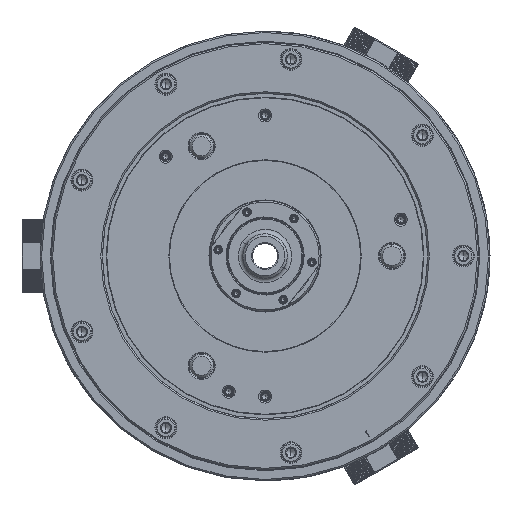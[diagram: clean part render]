
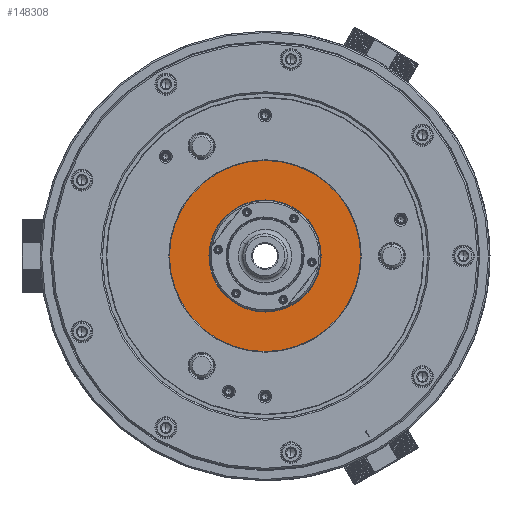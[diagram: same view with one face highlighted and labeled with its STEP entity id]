
A CAD part, left-side view. The second image highlights one B-rep face of the part: STEP entity #148308.
In plain terms, the highlighted planar face has unit normal (-1, 0, 0) as drawn and (0, 0, -1) by its records, which use the part's own axes.
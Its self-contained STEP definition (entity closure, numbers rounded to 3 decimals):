
#10630 = ORIENTED_EDGE ( 'NONE', *, *, #121672, .F. ) ;
#11906 = CARTESIAN_POINT ( 'NONE',  ( 0., 0., -126.8 ) ) ;
#25225 = DIRECTION ( 'NONE',  ( 0., 0., 1. ) ) ;
#26360 = CARTESIAN_POINT ( 'NONE',  ( 0., -65., -126.8 ) ) ;
#26466 = DIRECTION ( 'NONE',  ( 0., 0., 1. ) ) ;
#27181 = CIRCLE ( 'NONE', #57551, 64.616 ) ;
#28950 = VERTEX_POINT ( 'NONE', #182733 ) ;
#36580 = AXIS2_PLACEMENT_3D ( 'NONE', #11906, #25225, #83090 ) ;
#38759 = DIRECTION ( 'NONE',  ( 1., 0., 0. ) ) ;
#39322 = AXIS2_PLACEMENT_3D ( 'NONE', #49875, #109548, #167349 ) ;
#49394 = VERTEX_POINT ( 'NONE', #109243 ) ;
#49875 = CARTESIAN_POINT ( 'NONE',  ( 0., 0., -126.8 ) ) ;
#50836 = ORIENTED_EDGE ( 'NONE', *, *, #97735, .F. ) ;
#53921 = FACE_BOUND ( 'NONE', #140642, .T. ) ;
#57551 = AXIS2_PLACEMENT_3D ( 'NONE', #183867, #26466, #69189 ) ;
#69189 = DIRECTION ( 'NONE',  ( 1., 0., 0. ) ) ;
#78740 = ORIENTED_EDGE ( 'NONE', *, *, #156804, .T. ) ;
#83090 = DIRECTION ( 'NONE',  ( 1., 0., 0. ) ) ;
#90720 = DIRECTION ( 'NONE',  ( 0., 0., 1. ) ) ;
#97735 = EDGE_CURVE ( 'NONE', #49394, #156267, #152143, .T. ) ;
#98410 = DIRECTION ( 'NONE',  ( 0., 0., 1. ) ) ;
#101204 = CARTESIAN_POINT ( 'NONE',  ( 0., 0., -126.8 ) ) ;
#109243 = CARTESIAN_POINT ( 'NONE',  ( 64.616, 0., -126.8 ) ) ;
#109548 = DIRECTION ( 'NONE',  ( 0., 0., 1. ) ) ;
#113697 = VERTEX_POINT ( 'NONE', #118690 ) ;
#118234 = CIRCLE ( 'NONE', #36580, 37.9 ) ;
#118690 = CARTESIAN_POINT ( 'NONE',  ( -37.9, 0., -126.8 ) ) ;
#121672 = EDGE_CURVE ( 'NONE', #156267, #49394, #27181, .T. ) ;
#122213 = CARTESIAN_POINT ( 'NONE',  ( -64.616, 0., -126.8 ) ) ;
#125180 = ORIENTED_EDGE ( 'NONE', *, *, #138654, .T. ) ;
#137147 = DIRECTION ( 'NONE',  ( 1., 0., 0. ) ) ;
#138654 = EDGE_CURVE ( 'NONE', #28950, #113697, #142251, .T. ) ;
#140642 = EDGE_LOOP ( 'NONE', ( #78740, #125180 ) ) ;
#142251 = CIRCLE ( 'NONE', #39322, 37.9 ) ;
#148308 = ADVANCED_FACE ( 'NONE', ( #53921, #153436 ), #167664, .F. ) ;
#152143 = CIRCLE ( 'NONE', #161182, 64.616 ) ;
#153436 = FACE_OUTER_BOUND ( 'NONE', #184739, .T. ) ;
#153469 = AXIS2_PLACEMENT_3D ( 'NONE', #26360, #98410, #38759 ) ;
#156267 = VERTEX_POINT ( 'NONE', #122213 ) ;
#156804 = EDGE_CURVE ( 'NONE', #113697, #28950, #118234, .T. ) ;
#161182 = AXIS2_PLACEMENT_3D ( 'NONE', #101204, #90720, #137147 ) ;
#167349 = DIRECTION ( 'NONE',  ( 1., 0., 0. ) ) ;
#167664 = PLANE ( 'NONE',  #153469 ) ;
#182733 = CARTESIAN_POINT ( 'NONE',  ( 37.9, 0., -126.8 ) ) ;
#183867 = CARTESIAN_POINT ( 'NONE',  ( 0., 0., -126.8 ) ) ;
#184739 = EDGE_LOOP ( 'NONE', ( #10630, #50836 ) ) ;
